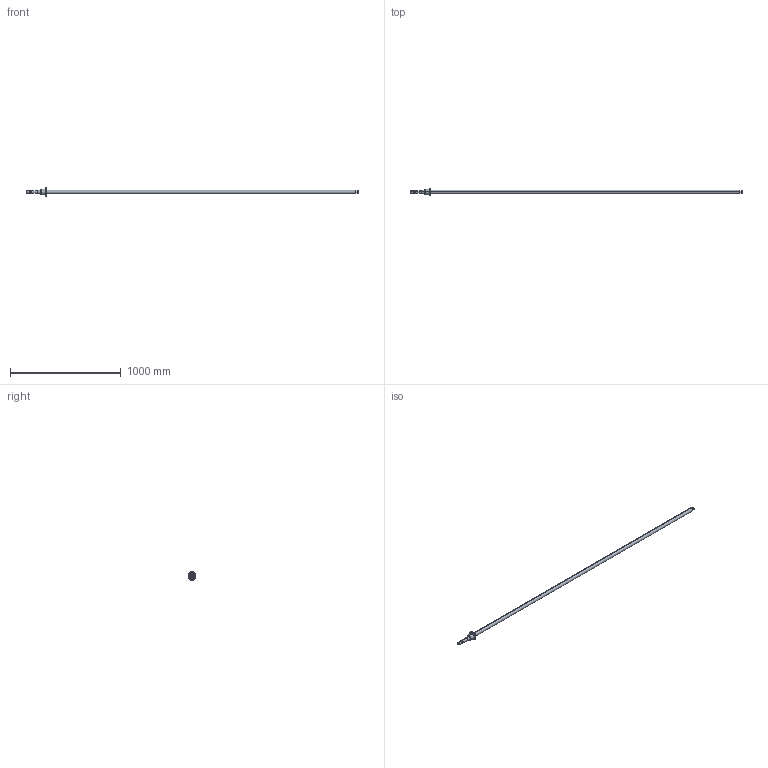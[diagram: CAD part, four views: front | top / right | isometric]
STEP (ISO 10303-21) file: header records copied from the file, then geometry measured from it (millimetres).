
FILE_DESCRIPTION (( 'STEP AP214' ), '1' );
FILE_NAME ('2.2128-SFU3205-3000mm.STEP', '2025-07-22T08:24:52', ( '' ), ( '' ), 'SwSTEP 2.0', 'SolidWorks 2024', '' );
FILE_SCHEMA (( 'AUTOMOTIVE_DESIGN' ));
Length unit declared in the file: millimetre
Products named in the file (3): 2.2128-SFU3205-3000mm; 2.2128 SFU3205-3000; 2.3018 Kuularuuvimutteri SFU3205-4
Assembly tree (2 placements, depth 2):
  2.2128-SFU3205-3000mm
    2.2128 SFU3205-3000
    2.3018 Kuularuuvimutteri SFU3205-4
Bounding box: 3000 x 62 x 79.87 mm (x, y, z)
Volume: 2453304.6 mm3; surface area: 325732.9 mm2
Topology: 3 solids, 3 shells, 108 faces, 266 edges, 173 vertices
Faces by surface type: cylinder 68, plane 22, cone 9, torus 6, bspline 3
Entity records: 6342 total; most frequent: CARTESIAN_POINT 3011, ORIENTED_EDGE 532, DIRECTION 515, EDGE_CURVE 266, AXIS2_PLACEMENT_3D 211, VERTEX_POINT 173, EDGE_LOOP 133, FACE_OUTER_BOUND 108
